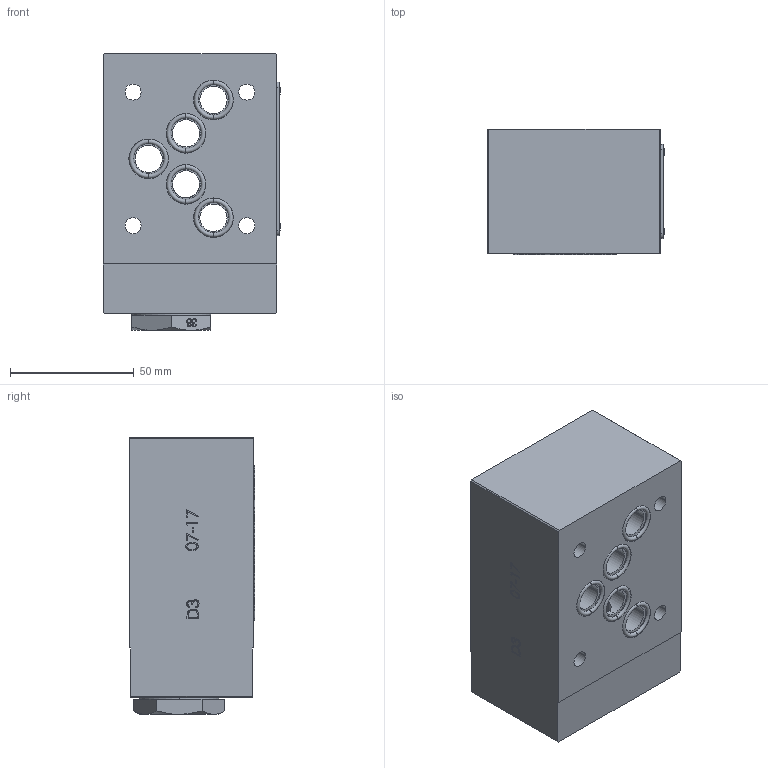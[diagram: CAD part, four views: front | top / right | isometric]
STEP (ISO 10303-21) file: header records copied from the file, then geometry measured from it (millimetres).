
FILE_DESCRIPTION (( 'STEP AP214' ), '1' );
FILE_NAME ('357-6-B-05.STEP', '2019-12-04T07:51:27', ( '' ), ( '' ), 'SwSTEP 2.0', 'SolidWorks 2018', '' );
FILE_SCHEMA (( 'AUTOMOTIVE_DESIGN' ));
Length unit declared in the file: millimetre
Products named in the file (1): 357-6-B-05
Bounding box: 71.66 x 50.58 x 111.8 mm (x, y, z)
Surface area: 49575.1 mm2 (no closed solid volume)
Topology: 0 solids, 30 shells, 734 faces, 3514 edges, 2694 vertices
Faces by surface type: plane 425, bspline 162, cylinder 93, cone 26, torus 20, sphere 8
Entity records: 58991 total; most frequent: CARTESIAN_POINT 25628, ORIENTED_EDGE 4801, DIRECTION 4115, EDGE_CURVE 3514, VERTEX_POINT 2694, LINE 2355, VECTOR 2355, EDGE_LOOP 947
